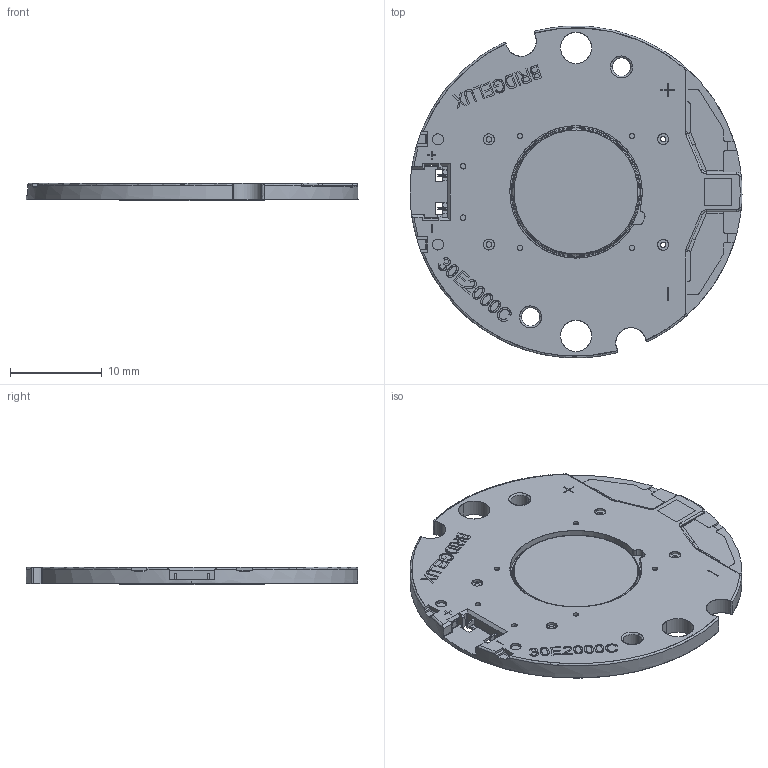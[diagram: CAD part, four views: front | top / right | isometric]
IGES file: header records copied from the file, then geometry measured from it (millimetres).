
Start section: SolidWorks IGES file using analytic representation for surfaces
Global section: file name: C:\Users\michaelsolomensky\Documents\MSdesign\Zhaga\Vero13 Zhaga.IGS; native system: SolidWorks 2013; preprocessor: SolidWorks 2013; author: michaelsolomensky; date: 140210.101403; units: millimetre
Bounding box: 36.2 x 36.19 x 1.9 mm (x, y, z)
Surface area: 3273.4 mm2 (no closed solid volume)
Topology: 0 solids, 0 shells, 973 faces, 9193 edges, 9182 vertices
Faces by surface type: bspline 679, revolution 294
